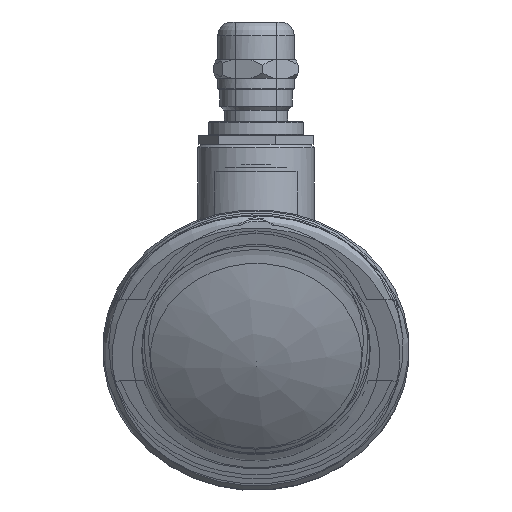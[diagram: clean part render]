
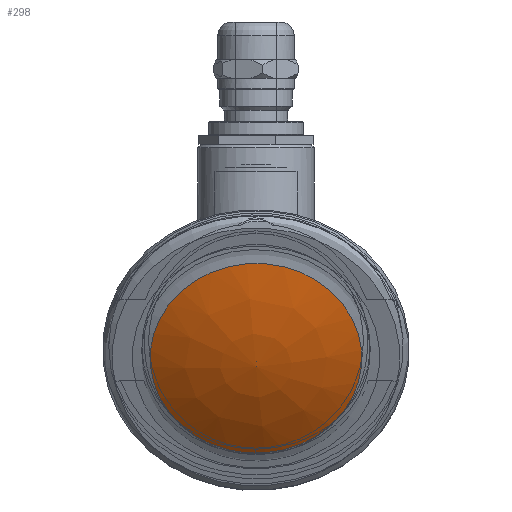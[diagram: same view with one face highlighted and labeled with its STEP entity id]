
A CAD part, left-side view. The second image highlights one B-rep face of the part: STEP entity #298.
In plain terms, the highlighted free-form (B-spline) face has degree [3, 3] with [4, 7] control points.
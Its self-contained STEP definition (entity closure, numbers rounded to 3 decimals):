
#298 = ADVANCED_FACE( '', ( #775, #776 ), #777, .T. );
#775 = FACE_BOUND( '', #1512, .T. );
#776 = FACE_OUTER_BOUND( '', #1513, .T. );
#777 = ( BOUNDED_SURFACE(  )B_SPLINE_SURFACE( 3, 3, ( ( #1516, #1517, #1518, #1519, #1520, #1521, #1522 ), ( #1523, #1524, #1525, #1526, #1527, #1528, #1529 ), ( #1530, #1531, #1532, #1533, #1534, #1535, #1536 ), ( #1537, #1538, #1539, #1540, #1541, #1542, #1543 ) ), .UNSPECIFIED., .F., .T., .F. )B_SPLINE_SURFACE_WITH_KNOTS( ( 4, 4 ), ( 4, 3, 4 ), ( 0., 6.283 ), ( 1.24, 1.39, 1.541 ), .UNSPECIFIED. )GEOMETRIC_REPRESENTATION_ITEM(  )RATIONAL_B_SPLINE_SURFACE( ( ( 1., 0.333, 0.333, 1., 0.333, 0.333, 1. ), ( 0.992, 0.331, 0.331, 0.992, 0.331, 0.331, 0.992 ), ( 0.992, 0.331, 0.331, 0.992, 0.331, 0.331, 0.992 ), ( 1., 0.333, 0.333, 1., 0.333, 0.333, 1. ) ) )REPRESENTATION_ITEM( '' )SURFACE(  ) );
#1512 = VERTEX_LOOP( '', #3256 );
#1513 = EDGE_LOOP( '', ( #3257 ) );
#1516 = CARTESIAN_POINT( '', ( -42.546, 0., -5.716 ) );
#1517 = CARTESIAN_POINT( '', ( -42.546, 0., -5.716 ) );
#1518 = CARTESIAN_POINT( '', ( -42.546, 0., -5.716 ) );
#1519 = CARTESIAN_POINT( '', ( -42.546, 0., -5.716 ) );
#1520 = CARTESIAN_POINT( '', ( -42.546, 0., -5.716 ) );
#1521 = CARTESIAN_POINT( '', ( -42.546, 0., -5.716 ) );
#1522 = CARTESIAN_POINT( '', ( -42.546, 0., -5.716 ) );
#1523 = CARTESIAN_POINT( '', ( -38.838, -0.693, -12.672 ) );
#1524 = CARTESIAN_POINT( '', ( -39.453, -16.451, -11.43 ) );
#1525 = CARTESIAN_POINT( '', ( -46.444, -15.065, 2.692 ) );
#1526 = CARTESIAN_POINT( '', ( -45.83, 0.693, 1.45 ) );
#1527 = CARTESIAN_POINT( '', ( -45.215, 16.451, 0.209 ) );
#1528 = CARTESIAN_POINT( '', ( -38.224, 15.065, -13.914 ) );
#1529 = CARTESIAN_POINT( '', ( -38.838, -0.693, -12.672 ) );
#1530 = CARTESIAN_POINT( '', ( -34.124, -1.375, -18.991 ) );
#1531 = CARTESIAN_POINT( '', ( -35.344, -32.642, -16.527 ) );
#1532 = CARTESIAN_POINT( '', ( -49.216, -29.892, 11.494 ) );
#1533 = CARTESIAN_POINT( '', ( -47.996, 1.375, 9.03 ) );
#1534 = CARTESIAN_POINT( '', ( -46.777, 32.642, 6.567 ) );
#1535 = CARTESIAN_POINT( '', ( -32.905, 29.892, -21.455 ) );
#1536 = CARTESIAN_POINT( '', ( -34.124, -1.375, -18.991 ) );
#1537 = CARTESIAN_POINT( '', ( -28.511, -2.03, -24.53 ) );
#1538 = CARTESIAN_POINT( '', ( -30.312, -48.205, -20.891 ) );
#1539 = CARTESIAN_POINT( '', ( -50.798, -44.145, 20.491 ) );
#1540 = CARTESIAN_POINT( '', ( -48.997, 2.03, 16.852 ) );
#1541 = CARTESIAN_POINT( '', ( -47.196, 48.205, 13.214 ) );
#1542 = CARTESIAN_POINT( '', ( -26.71, 44.145, -28.168 ) );
#1543 = CARTESIAN_POINT( '', ( -28.511, -2.03, -24.53 ) );
#3256 = VERTEX_POINT( '', #4770 );
#3257 = ORIENTED_EDGE( '', *, *, #4771, .T. );
#4770 = CARTESIAN_POINT( '', ( -42.546, 0., -5.716 ) );
#4771 = EDGE_CURVE( '', #5522, #5522, #5523, .T. );
#5522 = VERTEX_POINT( '', #6844 );
#5523 = CIRCLE( '', #6845, 23.177 );
#6844 = CARTESIAN_POINT( '', ( -37.853, 23.088, -5.658 ) );
#6845 = AXIS2_PLACEMENT_3D( '', #8544, #8545, #8546 );
#8544 = CARTESIAN_POINT( '', ( -38.754, 0., -3.839 ) );
#8545 = DIRECTION( '', ( -0.896, 0., -0.444 ) );
#8546 = DIRECTION( '', ( 0.039, 0.996, -0.078 ) );
